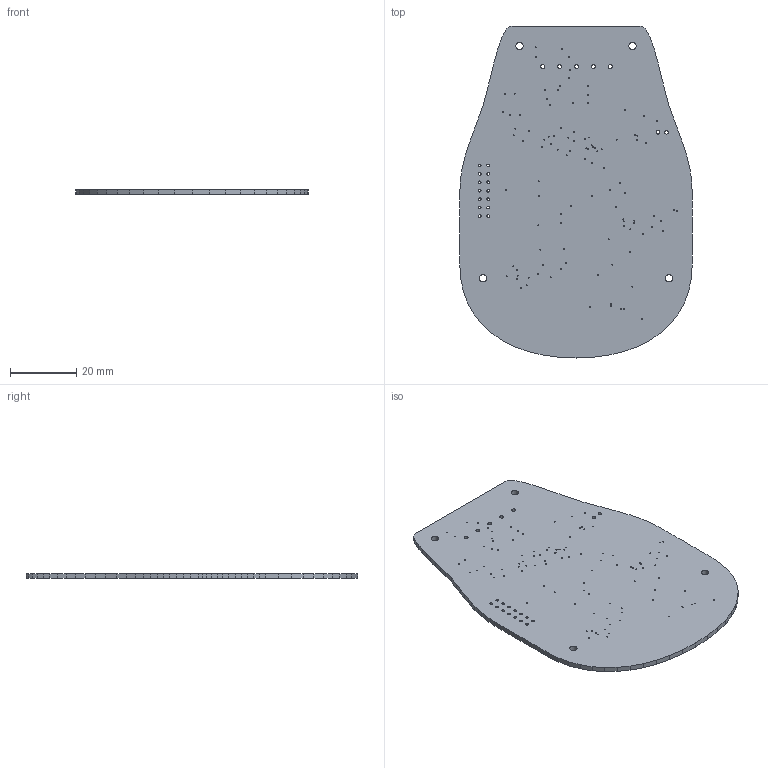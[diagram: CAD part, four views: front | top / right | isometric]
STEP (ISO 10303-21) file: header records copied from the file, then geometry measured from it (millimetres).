
FILE_DESCRIPTION(('KiCad electronic assembly'),'2;1');
FILE_NAME('Upper-bare.step','2026-11-04T22:51:45',('Pcbnew'),('Kicad'), 'Open CASCADE STEP processor 7.9','KiCad to STEP converter','Unknown' );
FILE_SCHEMA(('AUTOMOTIVE_DESIGN { 1 0 10303 214 1 1 1 1 }'));
Length unit declared in the file: millimetre
Products named in the file (2): Upper-bare 1; Upper_PCB
Assembly tree (1 placements, depth 2):
  Upper-bare 1
    Upper_PCB
Bounding box: 70 x 100 x 1.49 mm (x, y, z)
Volume: 8860.1 mm3; surface area: 12622 mm2
Topology: 1 solids, 1 shells, 231 faces, 687 edges, 458 vertices
Faces by surface type: cylinder 132, plane 99
Full cylindrical faces by diameter (mm): 0.3 x107, 0.8 x14, 1.1 x2, 1.2 x5, 2.2 x4
Entity records: 8410 total; most frequent: DIRECTION 1417, CARTESIAN_POINT 1378, ORIENTED_EDGE 1374, EDGE_CURVE 687, AXIS2_PLACEMENT_3D 497, FACE_BOUND 495, EDGE_LOOP 495, VERTEX_POINT 458
